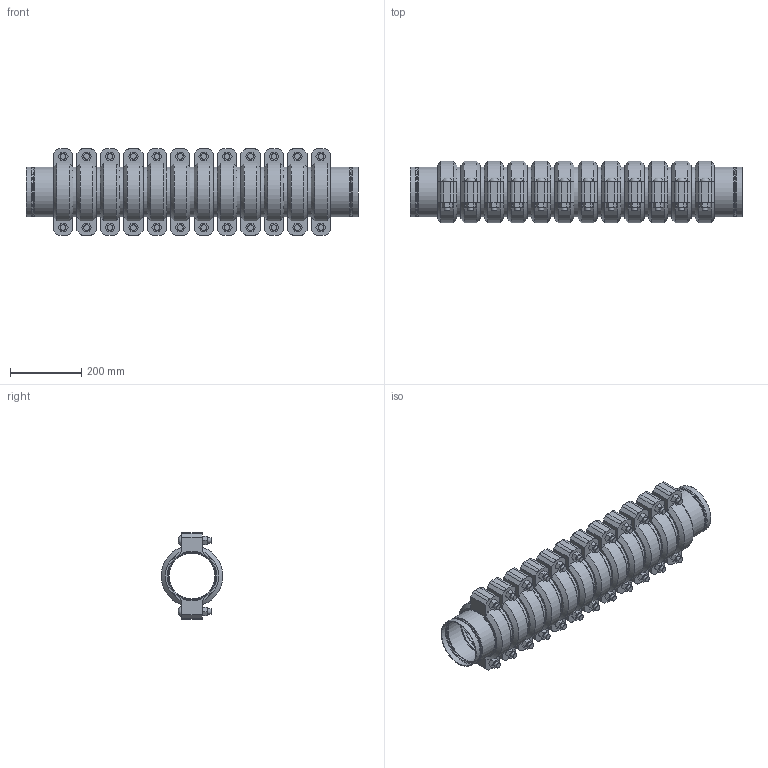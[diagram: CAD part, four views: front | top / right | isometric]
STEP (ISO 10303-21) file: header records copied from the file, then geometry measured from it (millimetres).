
FILE_DESCRIPTION(/* description */ ('VIC STRENGTHIN 100 EXPANSION JOINT 12 COUPLINGS NEUTRAL STYLE E155 (ST1)','CAx-IF Rec.Pracs.---Representation and Presentation of Product Manufacturing Information (PMI)---4.0---2014-10-13'),/* implementation_level */ '2;1');
FILE_NAME(/* name */ 'C:\Users\Vjadhav\AppData\Roaming\Autodesk\ApplicationPlugins\Victaulic.Temp\A29\Victaulic_SS-StrengThin 100_Expansion Joint_Neutral_12 Couplings_Style E155 (ST1)_12 Coup_Neut_05.0 (139.7) (125).stp',/* time_stamp */ '2021-07-20T17:42:30+05:00',/* author */ ('kkamble'),/* organization */ ('Victaulic'),/* preprocessor_version */ 'ST-DEVELOPER v17.2',/* originating_system */ 'Autodesk Inventor 2019',/* authorisation */ '');
FILE_SCHEMA (('AP242_MANAGED_MODEL_BASED_3D_ENGINEERING_MIM_LF { 1 0 10303 442 1 1 4 }'));
Length unit declared in the file: inch
Products named in the file (4): E155-05.0 (139.7); E494G-05.0 (139.7); Nipple-05.0 (139.7); 075-05.0 (139.7)
Assembly tree (25 placements, depth 2):
  E155-05.0 (139.7)
    E494G-05.0 (139.7)  x2
    Nipple-05.0 (139.7)  x11
    075-05.0 (139.7)  x12
Bounding box: 930.91 x 172.14 x 243.59 mm (x, y, z)
Volume: 9215802.3 mm3; surface area: 2017751 mm2
Topology: 25 solids, 49 shells, 884 faces, 2148 edges, 1510 vertices
Faces by surface type: plane 510, cylinder 266, cone 52, torus 32, bspline 24
Full cylindrical faces by diameter (mm): 15.875 x48, 17.424 x24, 128.194 x11, 130.505 x2, 131.47 x2, 133.35 x12, 134.518 x2, 135.484 x24, 135.687 x6, 139.7 x63
Entity records: 3862 total; most frequent: DIRECTION 693, CARTESIAN_POINT 671, ORIENTED_EDGE 548, AXIS2_PLACEMENT_3D 297, EDGE_CURVE 274, VERTEX_POINT 197, CIRCLE 167, EDGE_LOOP 129
